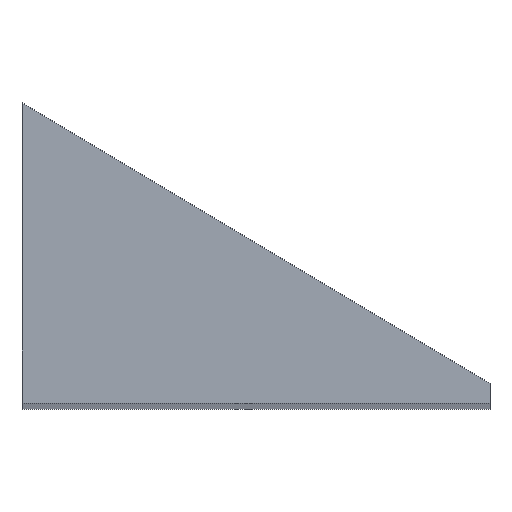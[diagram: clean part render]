
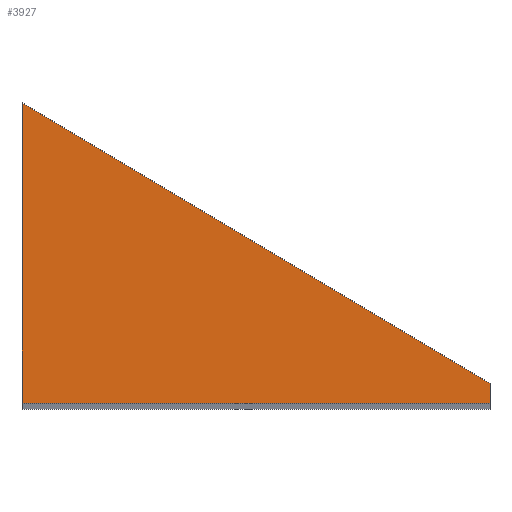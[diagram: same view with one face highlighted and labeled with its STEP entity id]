
A CAD part, top view. The second image highlights one B-rep face of the part: STEP entity #3927.
In plain terms, the highlighted planar face has unit normal (0, 0, 1).
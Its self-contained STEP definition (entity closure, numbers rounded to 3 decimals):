
#35 = DIRECTION ( 'NONE',  ( 0., -1., 0. ) ) ;
#85 = VERTEX_POINT ( 'NONE', #1159 ) ;
#184 = ORIENTED_EDGE ( 'NONE', *, *, #2526, .T. ) ;
#497 = LINE ( 'NONE', #1461, #1071 ) ;
#1007 = VERTEX_POINT ( 'NONE', #5483 ) ;
#1071 = VECTOR ( 'NONE', #1906, 1000. ) ;
#1159 = CARTESIAN_POINT ( 'NONE',  ( 120., 5., 0. ) ) ;
#1241 = LINE ( 'NONE', #5447, #4337 ) ;
#1329 = ORIENTED_EDGE ( 'NONE', *, *, #1628, .T. ) ;
#1424 = EDGE_CURVE ( 'NONE', #1007, #1654, #3215, .T. ) ;
#1461 = CARTESIAN_POINT ( 'NONE',  ( 120., 0., 0. ) ) ;
#1587 = LINE ( 'NONE', #2985, #4817 ) ;
#1628 = EDGE_CURVE ( 'NONE', #85, #1007, #1241, .T. ) ;
#1654 = VERTEX_POINT ( 'NONE', #1800 ) ;
#1800 = CARTESIAN_POINT ( 'NONE',  ( 0., 0., 0. ) ) ;
#1906 = DIRECTION ( 'NONE',  ( 1., 0., 0. ) ) ;
#1961 = ORIENTED_EDGE ( 'NONE', *, *, #1424, .T. ) ;
#2108 = DIRECTION ( 'NONE',  ( 0., 0., -1. ) ) ;
#2459 = DIRECTION ( 'NONE',  ( -1., 0., 0. ) ) ;
#2526 = EDGE_CURVE ( 'NONE', #5088, #85, #1587, .T. ) ;
#2542 = DIRECTION ( 'NONE',  ( 0., 1., 0. ) ) ;
#2549 = ORIENTED_EDGE ( 'NONE', *, *, #4553, .T. ) ;
#2929 = CARTESIAN_POINT ( 'NONE',  ( 120., 0., 0. ) ) ;
#2985 = CARTESIAN_POINT ( 'NONE',  ( 120., 5., 0. ) ) ;
#3147 = DIRECTION ( 'NONE',  ( -0.857, 0.514, 0. ) ) ;
#3215 = LINE ( 'NONE', #4608, #4752 ) ;
#3465 = PLANE ( 'NONE',  #5242 ) ;
#3850 = CARTESIAN_POINT ( 'NONE',  ( 0., 0., 0. ) ) ;
#3886 = FACE_OUTER_BOUND ( 'NONE', #4786, .T. ) ;
#3927 = ADVANCED_FACE ( 'NONE', ( #3886 ), #3465, .F. ) ;
#4337 = VECTOR ( 'NONE', #3147, 1000. ) ;
#4553 = EDGE_CURVE ( 'NONE', #1654, #5088, #497, .T. ) ;
#4608 = CARTESIAN_POINT ( 'NONE',  ( 0., 0., 0. ) ) ;
#4752 = VECTOR ( 'NONE', #35, 1000. ) ;
#4786 = EDGE_LOOP ( 'NONE', ( #2549, #184, #1329, #1961 ) ) ;
#4817 = VECTOR ( 'NONE', #2542, 1000. ) ;
#5088 = VERTEX_POINT ( 'NONE', #2929 ) ;
#5242 = AXIS2_PLACEMENT_3D ( 'NONE', #3850, #2108, #2459 ) ;
#5447 = CARTESIAN_POINT ( 'NONE',  ( 0., 77., 0. ) ) ;
#5483 = CARTESIAN_POINT ( 'NONE',  ( 0., 77., 0. ) ) ;
